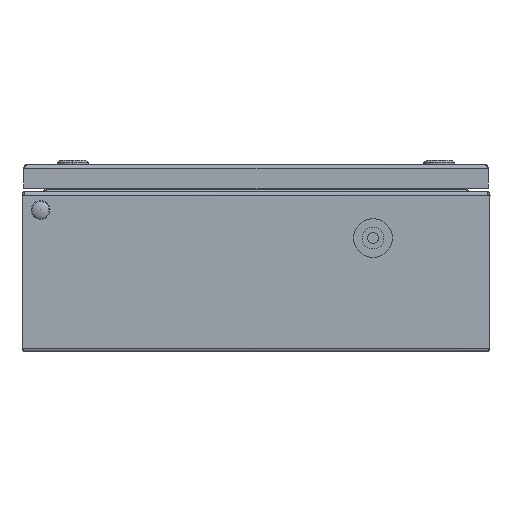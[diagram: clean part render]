
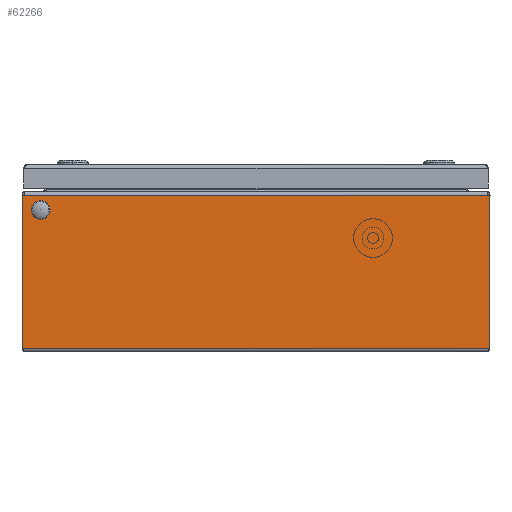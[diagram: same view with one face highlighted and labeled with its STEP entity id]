
A CAD part, front view. The second image highlights one B-rep face of the part: STEP entity #62266.
In plain terms, the highlighted planar face has unit normal (0, -1, 0).
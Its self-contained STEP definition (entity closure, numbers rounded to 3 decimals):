
#403 = VECTOR ( 'NONE', #32139, 1000. ) ;
#2157 = CARTESIAN_POINT ( 'NONE',  ( -150., -150., 100.6 ) ) ;
#2514 = EDGE_CURVE ( 'NONE', #12708, #17016, #81416, .T. ) ;
#2749 = ORIENTED_EDGE ( 'NONE', *, *, #13329, .F. ) ;
#3412 = CIRCLE ( 'NONE', #15304, 4.65 ) ;
#9021 = ORIENTED_EDGE ( 'NONE', *, *, #37185, .F. ) ;
#10570 = AXIS2_PLACEMENT_3D ( 'NONE', #91942, #13179, #62859 ) ;
#11456 = CARTESIAN_POINT ( 'NONE',  ( -150., -150., 2.4 ) ) ;
#12708 = VERTEX_POINT ( 'NONE', #69497 ) ;
#13179 = DIRECTION ( 'NONE',  ( 0., 1., 0. ) ) ;
#13329 = EDGE_CURVE ( 'NONE', #25411, #25411, #3412, .T. ) ;
#15304 = AXIS2_PLACEMENT_3D ( 'NONE', #24302, #81535, #44418 ) ;
#15305 = DIRECTION ( 'NONE',  ( -1., 0., 0. ) ) ;
#16253 = VECTOR ( 'NONE', #15305, 1000. ) ;
#16839 = VERTEX_POINT ( 'NONE', #43849 ) ;
#17016 = VERTEX_POINT ( 'NONE', #88422 ) ;
#17590 = ORIENTED_EDGE ( 'NONE', *, *, #47469, .F. ) ;
#21319 = VERTEX_POINT ( 'NONE', #38546 ) ;
#22539 = VERTEX_POINT ( 'NONE', #29553 ) ;
#23245 = CARTESIAN_POINT ( 'NONE',  ( 150., -150., 100.6 ) ) ;
#24302 = CARTESIAN_POINT ( 'NONE',  ( -138., -150., 91. ) ) ;
#24696 = ORIENTED_EDGE ( 'NONE', *, *, #76136, .T. ) ;
#25411 = VERTEX_POINT ( 'NONE', #89642 ) ;
#29553 = CARTESIAN_POINT ( 'NONE',  ( -148.623, -150., 100.6 ) ) ;
#30306 = CARTESIAN_POINT ( 'NONE',  ( 1650., -150., 2.4 ) ) ;
#32139 = DIRECTION ( 'NONE',  ( 1., 0., 0. ) ) ;
#33137 = EDGE_LOOP ( 'NONE', ( #2749 ) ) ;
#34012 = VECTOR ( 'NONE', #40477, 1000. ) ;
#37185 = EDGE_CURVE ( 'NONE', #87825, #22539, #50880, .T. ) ;
#38546 = CARTESIAN_POINT ( 'NONE',  ( 150., -150., 2.4 ) ) ;
#39934 = DIRECTION ( 'NONE',  ( 0., 0., 1. ) ) ;
#40477 = DIRECTION ( 'NONE',  ( -1., 0., 0. ) ) ;
#43849 = CARTESIAN_POINT ( 'NONE',  ( -150., -150., 2.4 ) ) ;
#44154 = EDGE_LOOP ( 'NONE', ( #24696, #9021, #17590, #45144, #46087, #70469 ) ) ;
#44418 = DIRECTION ( 'NONE',  ( 0., 0., -1. ) ) ;
#45144 = ORIENTED_EDGE ( 'NONE', *, *, #61726, .F. ) ;
#46087 = ORIENTED_EDGE ( 'NONE', *, *, #76451, .T. ) ;
#47469 = EDGE_CURVE ( 'NONE', #16839, #87825, #76104, .T. ) ;
#49215 = FACE_OUTER_BOUND ( 'NONE', #44154, .T. ) ;
#50880 = LINE ( 'NONE', #79547, #403 ) ;
#54514 = DIRECTION ( 'NONE',  ( 0., 0., 1. ) ) ;
#60812 = LINE ( 'NONE', #30306, #79538 ) ;
#61085 = LINE ( 'NONE', #89684, #88221 ) ;
#61726 = EDGE_CURVE ( 'NONE', #21319, #16839, #60812, .T. ) ;
#62266 = ADVANCED_FACE ( 'NONE', ( #70370, #49215 ), #64709, .F. ) ;
#62549 = LINE ( 'NONE', #83690, #34012 ) ;
#62859 = DIRECTION ( 'NONE',  ( 0., 0., -1. ) ) ;
#64709 = PLANE ( 'NONE',  #10570 ) ;
#69497 = CARTESIAN_POINT ( 'NONE',  ( 150., -150., 100.6 ) ) ;
#70370 = FACE_BOUND ( 'NONE', #33137, .T. ) ;
#70469 = ORIENTED_EDGE ( 'NONE', *, *, #2514, .T. ) ;
#76104 = LINE ( 'NONE', #11456, #81590 ) ;
#76136 = EDGE_CURVE ( 'NONE', #17016, #22539, #62549, .T. ) ;
#76451 = EDGE_CURVE ( 'NONE', #21319, #12708, #61085, .T. ) ;
#79538 = VECTOR ( 'NONE', #89402, 1000. ) ;
#79547 = CARTESIAN_POINT ( 'NONE',  ( -150., -150., 100.6 ) ) ;
#81416 = LINE ( 'NONE', #23245, #16253 ) ;
#81535 = DIRECTION ( 'NONE',  ( 0., -1., 0. ) ) ;
#81590 = VECTOR ( 'NONE', #39934, 1000. ) ;
#83690 = CARTESIAN_POINT ( 'NONE',  ( 1650., -150., 100.6 ) ) ;
#87825 = VERTEX_POINT ( 'NONE', #2157 ) ;
#88221 = VECTOR ( 'NONE', #54514, 1000. ) ;
#88422 = CARTESIAN_POINT ( 'NONE',  ( 148.623, -150., 100.6 ) ) ;
#89402 = DIRECTION ( 'NONE',  ( -1., 0., 0. ) ) ;
#89642 = CARTESIAN_POINT ( 'NONE',  ( -138., -150., 86.35 ) ) ;
#89684 = CARTESIAN_POINT ( 'NONE',  ( 150., -150., 2.4 ) ) ;
#91942 = CARTESIAN_POINT ( 'NONE',  ( 1650., -150., 100.6 ) ) ;
